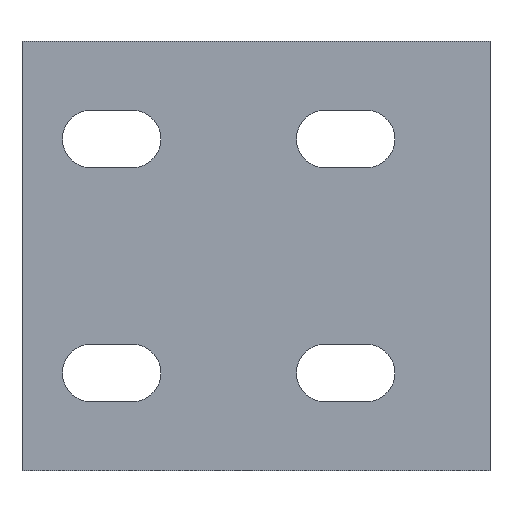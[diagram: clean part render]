
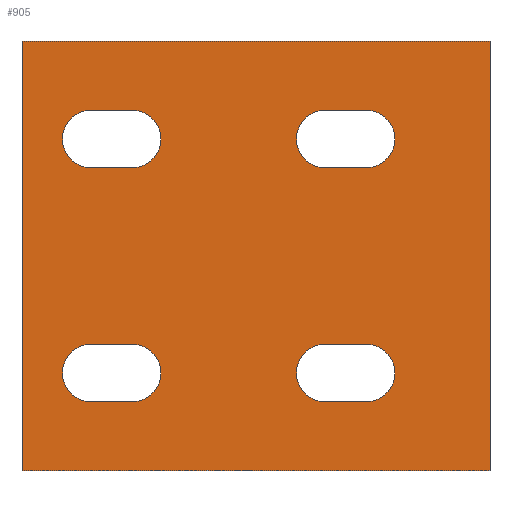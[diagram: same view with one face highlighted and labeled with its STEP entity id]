
A CAD part, front view. The second image highlights one B-rep face of the part: STEP entity #905.
In plain terms, the highlighted planar face has unit normal (0, -1, 0).
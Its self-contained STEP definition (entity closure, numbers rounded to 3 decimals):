
#21=CIRCLE('',#922,3.7);
#23=CIRCLE('',#926,3.7);
#25=CIRCLE('',#930,3.7);
#27=CIRCLE('',#934,3.7);
#29=CIRCLE('',#938,3.7);
#31=CIRCLE('',#942,3.7);
#33=CIRCLE('',#946,3.7);
#35=CIRCLE('',#950,3.7);
#306=ORIENTED_EDGE('',*,*,#359,.T.);
#307=ORIENTED_EDGE('',*,*,#361,.T.);
#308=ORIENTED_EDGE('',*,*,#352,.T.);
#309=ORIENTED_EDGE('',*,*,#356,.T.);
#310=ORIENTED_EDGE('',*,*,#436,.T.);
#311=ORIENTED_EDGE('',*,*,#451,.F.);
#312=ORIENTED_EDGE('',*,*,#440,.F.);
#313=ORIENTED_EDGE('',*,*,#449,.T.);
#314=ORIENTED_EDGE('',*,*,#337,.F.);
#315=ORIENTED_EDGE('',*,*,#328,.F.);
#316=ORIENTED_EDGE('',*,*,#332,.F.);
#317=ORIENTED_EDGE('',*,*,#335,.F.);
#318=ORIENTED_EDGE('',*,*,#349,.F.);
#319=ORIENTED_EDGE('',*,*,#340,.F.);
#320=ORIENTED_EDGE('',*,*,#344,.F.);
#321=ORIENTED_EDGE('',*,*,#347,.F.);
#322=ORIENTED_EDGE('',*,*,#371,.T.);
#323=ORIENTED_EDGE('',*,*,#373,.T.);
#324=ORIENTED_EDGE('',*,*,#364,.T.);
#325=ORIENTED_EDGE('',*,*,#368,.T.);
#328=EDGE_CURVE('',#454,#455,#538,.T.);
#332=EDGE_CURVE('',#457,#454,#21,.T.);
#335=EDGE_CURVE('',#459,#457,#543,.T.);
#337=EDGE_CURVE('',#455,#459,#23,.T.);
#340=EDGE_CURVE('',#462,#463,#546,.T.);
#344=EDGE_CURVE('',#465,#462,#25,.T.);
#347=EDGE_CURVE('',#467,#465,#551,.T.);
#349=EDGE_CURVE('',#463,#467,#27,.T.);
#352=EDGE_CURVE('',#471,#470,#554,.T.);
#356=EDGE_CURVE('',#470,#473,#29,.T.);
#359=EDGE_CURVE('',#473,#475,#559,.T.);
#361=EDGE_CURVE('',#475,#471,#31,.T.);
#364=EDGE_CURVE('',#479,#478,#562,.T.);
#368=EDGE_CURVE('',#478,#481,#33,.T.);
#371=EDGE_CURVE('',#481,#483,#567,.T.);
#373=EDGE_CURVE('',#483,#479,#35,.T.);
#436=EDGE_CURVE('',#527,#530,#611,.T.);
#440=EDGE_CURVE('',#534,#535,#614,.T.);
#449=EDGE_CURVE('',#534,#527,#623,.T.);
#451=EDGE_CURVE('',#535,#530,#625,.T.);
#454=VERTEX_POINT('',#1257);
#455=VERTEX_POINT('',#1259);
#457=VERTEX_POINT('',#1265);
#459=VERTEX_POINT('',#1271);
#462=VERTEX_POINT('',#1281);
#463=VERTEX_POINT('',#1283);
#465=VERTEX_POINT('',#1289);
#467=VERTEX_POINT('',#1295);
#470=VERTEX_POINT('',#1305);
#471=VERTEX_POINT('',#1307);
#473=VERTEX_POINT('',#1313);
#475=VERTEX_POINT('',#1319);
#478=VERTEX_POINT('',#1329);
#479=VERTEX_POINT('',#1331);
#481=VERTEX_POINT('',#1337);
#483=VERTEX_POINT('',#1343);
#527=VERTEX_POINT('',#1469);
#530=VERTEX_POINT('',#1475);
#534=VERTEX_POINT('',#1484);
#535=VERTEX_POINT('',#1486);
#538=LINE('',#1258,#628);
#543=LINE('',#1272,#633);
#546=LINE('',#1282,#636);
#551=LINE('',#1296,#641);
#554=LINE('',#1306,#644);
#559=LINE('',#1320,#649);
#562=LINE('',#1330,#652);
#567=LINE('',#1344,#657);
#611=LINE('',#1476,#701);
#614=LINE('',#1485,#704);
#623=LINE('',#1499,#713);
#625=LINE('',#1504,#715);
#628=VECTOR('',#1005,1000.);
#633=VECTOR('',#1018,1000.);
#636=VECTOR('',#1029,1000.);
#641=VECTOR('',#1042,1000.);
#644=VECTOR('',#1053,1000.);
#649=VECTOR('',#1066,1000.);
#652=VECTOR('',#1077,1000.);
#657=VECTOR('',#1090,1000.);
#701=VECTOR('',#1216,1000.);
#704=VECTOR('',#1223,1000.);
#713=VECTOR('',#1240,1000.);
#715=VECTOR('',#1248,1000.);
#771=EDGE_LOOP('',(#306,#307,#308,#309));
#772=EDGE_LOOP('',(#310,#311,#312,#313));
#773=EDGE_LOOP('',(#314,#315,#316,#317));
#774=EDGE_LOOP('',(#318,#319,#320,#321));
#775=EDGE_LOOP('',(#322,#323,#324,#325));
#831=FACE_BOUND('',#771,.T.);
#832=FACE_BOUND('',#772,.T.);
#833=FACE_BOUND('',#773,.T.);
#834=FACE_BOUND('',#774,.T.);
#835=FACE_BOUND('',#775,.T.);
#861=PLANE('',#998);
#905=ADVANCED_FACE('',(#831,#832,#833,#834,#835),#861,.F.);
#922=AXIS2_PLACEMENT_3D('',#1266,#1012,#1013);
#926=AXIS2_PLACEMENT_3D('',#1275,#1023,#1024);
#930=AXIS2_PLACEMENT_3D('',#1290,#1036,#1037);
#934=AXIS2_PLACEMENT_3D('',#1299,#1047,#1048);
#938=AXIS2_PLACEMENT_3D('',#1314,#1060,#1061);
#942=AXIS2_PLACEMENT_3D('',#1323,#1071,#1072);
#946=AXIS2_PLACEMENT_3D('',#1338,#1084,#1085);
#950=AXIS2_PLACEMENT_3D('',#1347,#1095,#1096);
#998=AXIS2_PLACEMENT_3D('',#1505,#1249,#1250);
#1005=DIRECTION('',(1.,0.,0.));
#1012=DIRECTION('',(0.,-1.,0.));
#1013=DIRECTION('',(0.,0.,-1.));
#1018=DIRECTION('',(-1.,0.,0.));
#1023=DIRECTION('',(0.,-1.,0.));
#1024=DIRECTION('',(0.,0.,-1.));
#1029=DIRECTION('',(1.,0.,0.));
#1036=DIRECTION('',(0.,-1.,0.));
#1037=DIRECTION('',(0.,0.,-1.));
#1042=DIRECTION('',(-1.,0.,0.));
#1047=DIRECTION('',(0.,-1.,0.));
#1048=DIRECTION('',(0.,0.,-1.));
#1053=DIRECTION('',(-1.,0.,0.));
#1060=DIRECTION('',(0.,1.,0.));
#1061=DIRECTION('',(0.,0.,1.));
#1066=DIRECTION('',(1.,0.,0.));
#1071=DIRECTION('',(0.,1.,0.));
#1072=DIRECTION('',(0.,0.,1.));
#1077=DIRECTION('',(-1.,0.,0.));
#1084=DIRECTION('',(0.,1.,0.));
#1085=DIRECTION('',(0.,0.,1.));
#1090=DIRECTION('',(1.,0.,0.));
#1095=DIRECTION('',(0.,1.,0.));
#1096=DIRECTION('',(0.,0.,1.));
#1216=DIRECTION('',(1.,0.,0.));
#1223=DIRECTION('',(1.,0.,0.));
#1240=DIRECTION('',(0.,0.,-1.));
#1248=DIRECTION('',(0.,0.,-1.));
#1249=DIRECTION('',(0.,1.,0.));
#1250=DIRECTION('',(0.,0.,1.));
#1257=CARTESIAN_POINT('',(8.9,0.,11.3));
#1258=CARTESIAN_POINT('',(14.1,0.,11.3));
#1259=CARTESIAN_POINT('',(14.1,0.,11.3));
#1265=CARTESIAN_POINT('',(8.9,0.,18.7));
#1266=CARTESIAN_POINT('',(8.9,0.,15.));
#1271=CARTESIAN_POINT('',(14.1,0.,18.7));
#1272=CARTESIAN_POINT('',(14.1,0.,18.7));
#1275=CARTESIAN_POINT('',(14.1,0.,15.));
#1281=CARTESIAN_POINT('',(38.9,0.,11.3));
#1282=CARTESIAN_POINT('',(44.1,0.,11.3));
#1283=CARTESIAN_POINT('',(44.1,0.,11.3));
#1289=CARTESIAN_POINT('',(38.9,0.,18.7));
#1290=CARTESIAN_POINT('',(38.9,0.,15.));
#1295=CARTESIAN_POINT('',(44.1,0.,18.7));
#1296=CARTESIAN_POINT('',(44.1,0.,18.7));
#1299=CARTESIAN_POINT('',(44.1,0.,15.));
#1305=CARTESIAN_POINT('',(8.9,0.,-18.7));
#1306=CARTESIAN_POINT('',(14.1,0.,-18.7));
#1307=CARTESIAN_POINT('',(14.1,0.,-18.7));
#1313=CARTESIAN_POINT('',(8.9,0.,-11.3));
#1314=CARTESIAN_POINT('',(8.9,0.,-15.));
#1319=CARTESIAN_POINT('',(14.1,0.,-11.3));
#1320=CARTESIAN_POINT('',(14.1,0.,-11.3));
#1323=CARTESIAN_POINT('',(14.1,0.,-15.));
#1329=CARTESIAN_POINT('',(38.9,0.,-18.7));
#1330=CARTESIAN_POINT('',(44.1,0.,-18.7));
#1331=CARTESIAN_POINT('',(44.1,0.,-18.7));
#1337=CARTESIAN_POINT('',(38.9,0.,-11.3));
#1338=CARTESIAN_POINT('',(38.9,0.,-15.));
#1343=CARTESIAN_POINT('',(44.1,0.,-11.3));
#1344=CARTESIAN_POINT('',(44.1,0.,-11.3));
#1347=CARTESIAN_POINT('',(44.1,0.,-15.));
#1469=CARTESIAN_POINT('',(0.,0.,-27.5));
#1475=CARTESIAN_POINT('',(60.,0.,-27.5));
#1476=CARTESIAN_POINT('',(0.,0.,-27.5));
#1484=CARTESIAN_POINT('',(0.,0.,27.5));
#1485=CARTESIAN_POINT('',(0.,0.,27.5));
#1486=CARTESIAN_POINT('',(60.,0.,27.5));
#1499=CARTESIAN_POINT('',(0.,0.,27.5));
#1504=CARTESIAN_POINT('',(60.,0.,27.5));
#1505=CARTESIAN_POINT('',(0.,0.,27.5));
